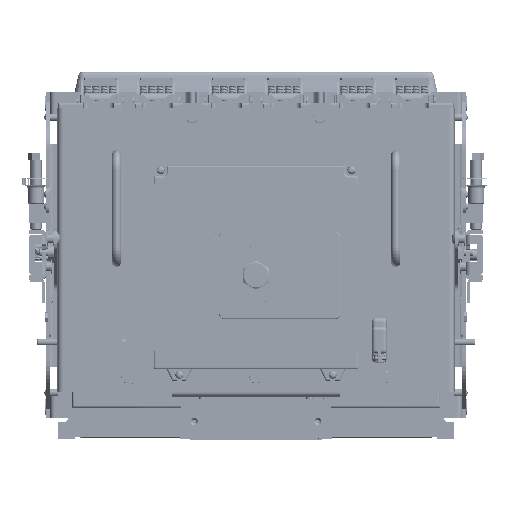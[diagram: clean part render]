
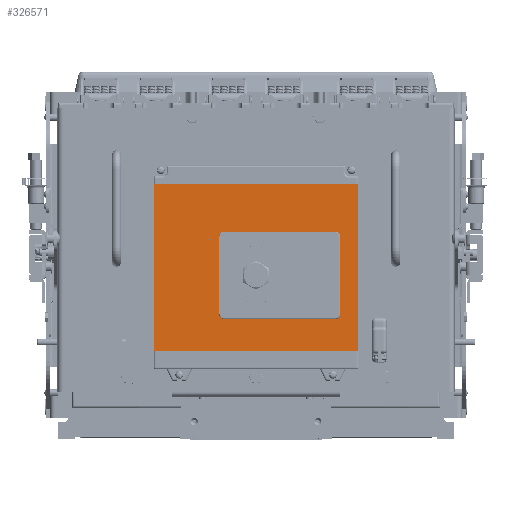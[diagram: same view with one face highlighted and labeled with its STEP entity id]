
A CAD part, top view. The second image highlights one B-rep face of the part: STEP entity #326571.
In plain terms, the highlighted planar face has unit normal (0, 0, 1).
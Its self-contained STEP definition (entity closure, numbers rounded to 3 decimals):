
#83723 = VERTEX_POINT ( 'NONE', #670381 ) ;
#83751 = EDGE_CURVE ( 'NONE', #83756, #83723, #670603, .T. ) ;
#83756 = VERTEX_POINT ( 'NONE', #670585 ) ;
#232912 = ORIENTED_EDGE ( 'NONE', *, *, #232930, .F. ) ;
#232930 = EDGE_CURVE ( 'NONE', #232938, #83723, #431645, .T. ) ;
#232938 = VERTEX_POINT ( 'NONE', #431990 ) ;
#232951 = ORIENTED_EDGE ( 'NONE', *, *, #232965, .T. ) ;
#232965 = EDGE_CURVE ( 'NONE', #232938, #233410, #431891, .T. ) ;
#233060 = EDGE_CURVE ( 'NONE', #233069, #233072, #432341, .T. ) ;
#233069 = VERTEX_POINT ( 'NONE', #432318 ) ;
#233072 = VERTEX_POINT ( 'NONE', #432311 ) ;
#233096 = ORIENTED_EDGE ( 'NONE', *, *, #233110, .T. ) ;
#233110 = EDGE_CURVE ( 'NONE', #233069, #233125, #432494, .T. ) ;
#233125 = VERTEX_POINT ( 'NONE', #432802 ) ;
#233140 = ORIENTED_EDGE ( 'NONE', *, *, #233150, .F. ) ;
#233150 = EDGE_CURVE ( 'NONE', #83756, #233125, #432732, .T. ) ;
#233170 = ORIENTED_EDGE ( 'NONE', *, *, #83751, .T. ) ;
#233188 = EDGE_CURVE ( 'NONE', #233470, #233072, #432930, .T. ) ;
#233410 = VERTEX_POINT ( 'NONE', #433550 ) ;
#233443 = ORIENTED_EDGE ( 'NONE', *, *, #233458, .F. ) ;
#233458 = EDGE_CURVE ( 'NONE', #233470, #233410, #433433, .T. ) ;
#233470 = VERTEX_POINT ( 'NONE', #433417 ) ;
#233503 = ORIENTED_EDGE ( 'NONE', *, *, #233188, .T. ) ;
#252411 = EDGE_CURVE ( 'NONE', #548188, #252417, #763153, .T. ) ;
#252417 = VERTEX_POINT ( 'NONE', #763582 ) ;
#323298 = EDGE_LOOP ( 'NONE', ( #790480, #233096, #233140, #233170, #232912, #232951, #233443, #233503 ) ) ;
#323329 = ORIENTED_EDGE ( 'NONE', *, *, #326419, .F. ) ;
#326190 = EDGE_CURVE ( 'NONE', #252417, #326386, #619377, .T. ) ;
#326282 = ORIENTED_EDGE ( 'NONE', *, *, #252411, .F. ) ;
#326310 = ORIENTED_EDGE ( 'NONE', *, *, #548156, .F. ) ;
#326386 = VERTEX_POINT ( 'NONE', #620736 ) ;
#326419 = EDGE_CURVE ( 'NONE', #326386, #548165, #621036, .T. ) ;
#326571 = ADVANCED_FACE ( 'NONE', ( #622750, #622742 ), #622721, .T. ) ;
#326588 = EDGE_LOOP ( 'NONE', ( #326602, #326282, #326310, #323329 ) ) ;
#326602 = ORIENTED_EDGE ( 'NONE', *, *, #326190, .F. ) ;
#431633 = DIRECTION ( 'NONE',  ( -1., 0., 0. ) ) ;
#431637 = VECTOR ( 'NONE', #431633, 1000. ) ;
#431641 = CARTESIAN_POINT ( 'NONE',  ( -66.272, 97.32, 371.783 ) ) ;
#431645 = LINE ( 'NONE', #431641, #431637 ) ;
#431880 = DIRECTION ( 'NONE',  ( 1., 0., 0. ) ) ;
#431884 = DIRECTION ( 'NONE',  ( 0., 0., -1. ) ) ;
#431888 = AXIS2_PLACEMENT_3D ( 'NONE', #431922, #431884, #431880 ) ;
#431891 = CIRCLE ( 'NONE', #431888, 5. ) ;
#431922 = CARTESIAN_POINT ( 'NONE',  ( 58.728, 92.32, 371.783 ) ) ;
#431990 = CARTESIAN_POINT ( 'NONE',  ( 58.728, 97.32, 371.783 ) ) ;
#432311 = CARTESIAN_POINT ( 'NONE',  ( 58.728, 3.32, 371.783 ) ) ;
#432318 = CARTESIAN_POINT ( 'NONE',  ( -61.272, 3.32, 371.783 ) ) ;
#432331 = DIRECTION ( 'NONE',  ( 1., 0., 0. ) ) ;
#432333 = VECTOR ( 'NONE', #432331, 1000. ) ;
#432338 = CARTESIAN_POINT ( 'NONE',  ( -66.272, 3.32, 371.783 ) ) ;
#432341 = LINE ( 'NONE', #432338, #432333 ) ;
#432482 = DIRECTION ( 'NONE',  ( 1., 0., 0. ) ) ;
#432486 = DIRECTION ( 'NONE',  ( 0., 0., -1. ) ) ;
#432491 = AXIS2_PLACEMENT_3D ( 'NONE', #432577, #432486, #432482 ) ;
#432494 = CIRCLE ( 'NONE', #432491, 5. ) ;
#432577 = CARTESIAN_POINT ( 'NONE',  ( -61.272, 8.32, 371.783 ) ) ;
#432723 = DIRECTION ( 'NONE',  ( 0., -1., 0. ) ) ;
#432726 = VECTOR ( 'NONE', #432723, 1000. ) ;
#432729 = CARTESIAN_POINT ( 'NONE',  ( -66.272, 3.32, 371.783 ) ) ;
#432732 = LINE ( 'NONE', #432729, #432726 ) ;
#432802 = CARTESIAN_POINT ( 'NONE',  ( -66.272, 8.32, 371.783 ) ) ;
#432919 = DIRECTION ( 'NONE',  ( 1., 0., 0. ) ) ;
#432922 = DIRECTION ( 'NONE',  ( 0., 0., -1. ) ) ;
#432925 = CARTESIAN_POINT ( 'NONE',  ( 58.728, 8.32, 371.783 ) ) ;
#432928 = AXIS2_PLACEMENT_3D ( 'NONE', #432925, #432922, #432919 ) ;
#432930 = CIRCLE ( 'NONE', #432928, 5. ) ;
#433417 = CARTESIAN_POINT ( 'NONE',  ( 63.728, 8.32, 371.783 ) ) ;
#433423 = DIRECTION ( 'NONE',  ( 0., 1., 0. ) ) ;
#433426 = VECTOR ( 'NONE', #433423, 1000. ) ;
#433432 = CARTESIAN_POINT ( 'NONE',  ( 63.728, 3.32, 371.783 ) ) ;
#433433 = LINE ( 'NONE', #433432, #433426 ) ;
#433550 = CARTESIAN_POINT ( 'NONE',  ( 63.728, 92.32, 371.783 ) ) ;
#548156 = EDGE_CURVE ( 'NONE', #548165, #548188, #685720, .T. ) ;
#548165 = VERTEX_POINT ( 'NONE', #685673 ) ;
#548188 = VERTEX_POINT ( 'NONE', #685653 ) ;
#619369 = DIRECTION ( 'NONE',  ( 1., 0., 0. ) ) ;
#619372 = VECTOR ( 'NONE', #619369, 1000. ) ;
#619375 = CARTESIAN_POINT ( 'NONE',  ( -136.772, 148.32, 371.783 ) ) ;
#619377 = LINE ( 'NONE', #619375, #619372 ) ;
#620736 = CARTESIAN_POINT ( 'NONE',  ( 83.228, 148.32, 371.783 ) ) ;
#621026 = DIRECTION ( 'NONE',  ( 0., -1., 0. ) ) ;
#621029 = VECTOR ( 'NONE', #621026, 1000. ) ;
#621034 = CARTESIAN_POINT ( 'NONE',  ( 83.228, -50.68, 371.783 ) ) ;
#621036 = LINE ( 'NONE', #621034, #621029 ) ;
#622707 = DIRECTION ( 'NONE',  ( 1., 0., 0. ) ) ;
#622712 = DIRECTION ( 'NONE',  ( 0., 0., 1. ) ) ;
#622714 = CARTESIAN_POINT ( 'NONE',  ( 83.228, 156.82, 371.783 ) ) ;
#622718 = AXIS2_PLACEMENT_3D ( 'NONE', #622714, #622712, #622707 ) ;
#622721 = PLANE ( 'NONE',  #622718 ) ;
#622742 = FACE_BOUND ( 'NONE', #323298, .T. ) ;
#622750 = FACE_OUTER_BOUND ( 'NONE', #326588, .T. ) ;
#670381 = CARTESIAN_POINT ( 'NONE',  ( -61.272, 97.32, 371.783 ) ) ;
#670585 = CARTESIAN_POINT ( 'NONE',  ( -66.272, 92.32, 371.783 ) ) ;
#670592 = DIRECTION ( 'NONE',  ( 1., 0., 0. ) ) ;
#670596 = DIRECTION ( 'NONE',  ( 0., 0., -1. ) ) ;
#670598 = CARTESIAN_POINT ( 'NONE',  ( -61.272, 92.32, 371.783 ) ) ;
#670600 = AXIS2_PLACEMENT_3D ( 'NONE', #670598, #670596, #670592 ) ;
#670603 = CIRCLE ( 'NONE', #670600, 5. ) ;
#685653 = CARTESIAN_POINT ( 'NONE',  ( -136.772, -30.68, 371.783 ) ) ;
#685673 = CARTESIAN_POINT ( 'NONE',  ( 83.228, -30.68, 371.783 ) ) ;
#685712 = DIRECTION ( 'NONE',  ( -1., 0., 0. ) ) ;
#685715 = VECTOR ( 'NONE', #685712, 1000. ) ;
#685717 = CARTESIAN_POINT ( 'NONE',  ( -136.772, -30.68, 371.783 ) ) ;
#685720 = LINE ( 'NONE', #685717, #685715 ) ;
#763140 = DIRECTION ( 'NONE',  ( 0., 1., 0. ) ) ;
#763144 = VECTOR ( 'NONE', #763140, 1000. ) ;
#763149 = CARTESIAN_POINT ( 'NONE',  ( -136.772, -50.68, 371.783 ) ) ;
#763153 = LINE ( 'NONE', #763149, #763144 ) ;
#763582 = CARTESIAN_POINT ( 'NONE',  ( -136.772, 148.32, 371.783 ) ) ;
#790480 = ORIENTED_EDGE ( 'NONE', *, *, #233060, .F. ) ;
